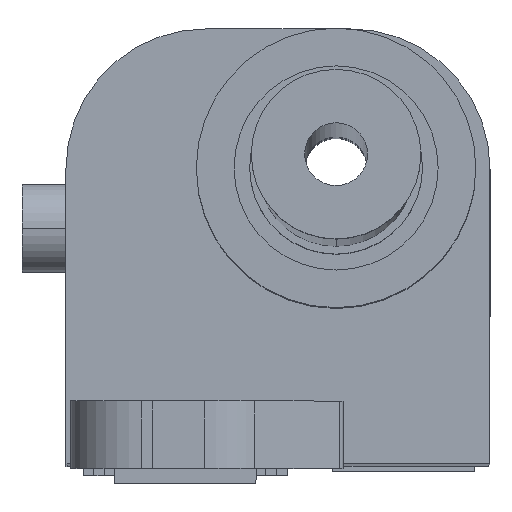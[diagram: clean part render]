
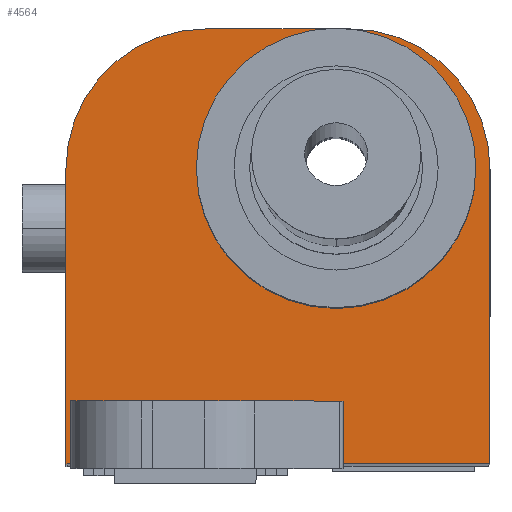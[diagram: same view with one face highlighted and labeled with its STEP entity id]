
A CAD part, top view. The second image highlights one B-rep face of the part: STEP entity #4564.
In plain terms, the highlighted planar face has unit normal (0, 0, 1).
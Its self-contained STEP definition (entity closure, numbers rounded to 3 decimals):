
#131 = VERTEX_POINT ( 'NONE', #813 ) ;
#132 = EDGE_CURVE ( 'NONE', #5045, #131, #870, .T. ) ;
#813 = CARTESIAN_POINT ( 'NONE',  ( 7., 18.8, 0. ) ) ;
#866 = DIRECTION ( 'NONE',  ( 1., 0., 0. ) ) ;
#867 = DIRECTION ( 'NONE',  ( 0., 0., 1. ) ) ;
#868 = CARTESIAN_POINT ( 'NONE',  ( 0., 18.8, 0. ) ) ;
#869 = AXIS2_PLACEMENT_3D ( 'NONE', #868, #867, #866 ) ;
#870 = CIRCLE ( 'NONE', #869, 7. ) ;
#1167 = CARTESIAN_POINT ( 'NONE',  ( -17.2, 0., 0. ) ) ;
#1689 = LINE ( 'NONE', #1167, #1754 ) ;
#1696 = CARTESIAN_POINT ( 'NONE',  ( -17.2, 18.8, 0. ) ) ;
#1753 = DIRECTION ( 'NONE',  ( 0., -1., 0. ) ) ;
#1754 = VECTOR ( 'NONE', #1753, 1000. ) ;
#2038 = CARTESIAN_POINT ( 'NONE',  ( -16.9, 0., 0. ) ) ;
#2222 = CARTESIAN_POINT ( 'NONE',  ( -17.2, 0., 0. ) ) ;
#2428 = CARTESIAN_POINT ( 'NONE',  ( -8.3, 27.7, 0. ) ) ;
#2429 = CARTESIAN_POINT ( 'NONE',  ( 0.9, 27.7, 0. ) ) ;
#2456 = CARTESIAN_POINT ( 'NONE',  ( 9.8, 0., 0. ) ) ;
#2462 = DIRECTION ( 'NONE',  ( -1., 0., 0. ) ) ;
#2463 = VECTOR ( 'NONE', #2462, 1000. ) ;
#2464 = CARTESIAN_POINT ( 'NONE',  ( -17.2, 27.7, 0. ) ) ;
#2465 = LINE ( 'NONE', #2464, #2463 ) ;
#2508 = DIRECTION ( 'NONE',  ( -1., 0., 0. ) ) ;
#2509 = DIRECTION ( 'NONE',  ( 0., 0., 1. ) ) ;
#2510 = CARTESIAN_POINT ( 'NONE',  ( 0.9, 18.8, 0. ) ) ;
#2511 = AXIS2_PLACEMENT_3D ( 'NONE', #2510, #2509, #2508 ) ;
#2512 = CIRCLE ( 'NONE', #2511, 8.9 ) ;
#2513 = DIRECTION ( 'NONE',  ( -1., 0., 0. ) ) ;
#2514 = DIRECTION ( 'NONE',  ( 0., 0., -1. ) ) ;
#2515 = CARTESIAN_POINT ( 'NONE',  ( -17.2, 0., 0. ) ) ;
#2516 = AXIS2_PLACEMENT_3D ( 'NONE', #2515, #2514, #2513 ) ;
#2517 = PLANE ( 'NONE',  #2516 ) ;
#2518 = FACE_OUTER_BOUND ( 'NONE', #4578, .T. ) ;
#2519 = FACE_BOUND ( 'NONE', #4569, .T. ) ;
#2530 = DIRECTION ( 'NONE',  ( 0., 1., 0. ) ) ;
#2531 = VECTOR ( 'NONE', #2530, 1000. ) ;
#2532 = CARTESIAN_POINT ( 'NONE',  ( 9.8, 0., 0. ) ) ;
#2533 = LINE ( 'NONE', #2532, #2531 ) ;
#2534 = CARTESIAN_POINT ( 'NONE',  ( 9.8, 18.8, 0. ) ) ;
#2539 = DIRECTION ( 'NONE',  ( 0., -1., 0. ) ) ;
#2540 = VECTOR ( 'NONE', #2539, 1000. ) ;
#2541 = CARTESIAN_POINT ( 'NONE',  ( -16.9, 4., 0. ) ) ;
#2542 = LINE ( 'NONE', #2541, #2540 ) ;
#2543 = CARTESIAN_POINT ( 'NONE',  ( -8.3, 18.8, 0. ) ) ;
#2556 = DIRECTION ( 'NONE',  ( 1., 0., 0. ) ) ;
#2557 = VECTOR ( 'NONE', #2556, 1000. ) ;
#2558 = CARTESIAN_POINT ( 'NONE',  ( -17.2, 0., 0. ) ) ;
#2559 = LINE ( 'NONE', #2558, #2557 ) ;
#2568 = DIRECTION ( 'NONE',  ( 1., 0., 0. ) ) ;
#2569 = DIRECTION ( 'NONE',  ( 0., 0., 1. ) ) ;
#2570 = CARTESIAN_POINT ( 'NONE',  ( 0., 18.8, 0. ) ) ;
#2571 = AXIS2_PLACEMENT_3D ( 'NONE', #2570, #2569, #2568 ) ;
#2572 = CIRCLE ( 'NONE', #2571, 7. ) ;
#2596 = DIRECTION ( 'NONE',  ( 1., 0., 0. ) ) ;
#2597 = VECTOR ( 'NONE', #2596, 1000. ) ;
#2598 = CARTESIAN_POINT ( 'NONE',  ( -17.2, 0., 0. ) ) ;
#2599 = LINE ( 'NONE', #2598, #2597 ) ;
#2600 = DIRECTION ( 'NONE',  ( -1., 0., 0. ) ) ;
#2601 = DIRECTION ( 'NONE',  ( 0., 0., 1. ) ) ;
#2602 = AXIS2_PLACEMENT_3D ( 'NONE', #2543, #2601, #2600 ) ;
#2603 = CIRCLE ( 'NONE', #2602, 8.9 ) ;
#3248 = CARTESIAN_POINT ( 'NONE',  ( -7., 18.8, 0. ) ) ;
#3374 = CARTESIAN_POINT ( 'NONE',  ( 0.5, 4., 0. ) ) ;
#3375 = DIRECTION ( 'NONE',  ( -1., 0., 0. ) ) ;
#3376 = VECTOR ( 'NONE', #3375, 1000. ) ;
#3377 = CARTESIAN_POINT ( 'NONE',  ( -16.9, 4., 0. ) ) ;
#3378 = LINE ( 'NONE', #3377, #3376 ) ;
#3379 = CARTESIAN_POINT ( 'NONE',  ( -16.9, 4., 0. ) ) ;
#3475 = CARTESIAN_POINT ( 'NONE',  ( 0.5, 0., 0. ) ) ;
#3521 = DIRECTION ( 'NONE',  ( 0., -1., 0. ) ) ;
#3522 = VECTOR ( 'NONE', #3521, 1000. ) ;
#3523 = CARTESIAN_POINT ( 'NONE',  ( 0.5, 4., 0. ) ) ;
#3524 = LINE ( 'NONE', #3523, #3522 ) ;
#4071 = VERTEX_POINT ( 'NONE', #1696 ) ;
#4075 = EDGE_CURVE ( 'NONE', #4071, #4397, #1689, .T. ) ;
#4251 = VERTEX_POINT ( 'NONE', #2038 ) ;
#4397 = VERTEX_POINT ( 'NONE', #2222 ) ;
#4499 = VERTEX_POINT ( 'NONE', #2429 ) ;
#4500 = VERTEX_POINT ( 'NONE', #2428 ) ;
#4521 = EDGE_CURVE ( 'NONE', #4499, #4500, #2465, .T. ) ;
#4525 = VERTEX_POINT ( 'NONE', #2456 ) ;
#4554 = VERTEX_POINT ( 'NONE', #2534 ) ;
#4556 = EDGE_CURVE ( 'NONE', #4525, #4554, #2533, .T. ) ;
#4562 = ORIENTED_EDGE ( 'NONE', *, *, #4556, .T. ) ;
#4564 = ADVANCED_FACE ( 'NONE', ( #2519, #2518 ), #2517, .F. ) ;
#4565 = ORIENTED_EDGE ( 'NONE', *, *, #4567, .T. ) ;
#4566 = ORIENTED_EDGE ( 'NONE', *, *, #4571, .F. ) ;
#4567 = EDGE_CURVE ( 'NONE', #4554, #4499, #2512, .T. ) ;
#4569 = EDGE_LOOP ( 'NONE', ( #4566, #4576 ) ) ;
#4571 = EDGE_CURVE ( 'NONE', #131, #5045, #2572, .T. ) ;
#4576 = ORIENTED_EDGE ( 'NONE', *, *, #132, .F. ) ;
#4577 = EDGE_CURVE ( 'NONE', #5182, #4525, #2559, .T. ) ;
#4578 = EDGE_LOOP ( 'NONE', ( #4562, #4565, #4586, #4590, #4594, #4579, #4595, #4588, #4589, #4591 ) ) ;
#4579 = ORIENTED_EDGE ( 'NONE', *, *, #4597, .T. ) ;
#4586 = ORIENTED_EDGE ( 'NONE', *, *, #4521, .T. ) ;
#4587 = EDGE_CURVE ( 'NONE', #5116, #4251, #2542, .T. ) ;
#4588 = ORIENTED_EDGE ( 'NONE', *, *, #5120, .F. ) ;
#4589 = ORIENTED_EDGE ( 'NONE', *, *, #5188, .T. ) ;
#4590 = ORIENTED_EDGE ( 'NONE', *, *, #4593, .T. ) ;
#4591 = ORIENTED_EDGE ( 'NONE', *, *, #4577, .T. ) ;
#4593 = EDGE_CURVE ( 'NONE', #4500, #4071, #2603, .T. ) ;
#4594 = ORIENTED_EDGE ( 'NONE', *, *, #4075, .T. ) ;
#4595 = ORIENTED_EDGE ( 'NONE', *, *, #4587, .F. ) ;
#4597 = EDGE_CURVE ( 'NONE', #4397, #4251, #2599, .T. ) ;
#5045 = VERTEX_POINT ( 'NONE', #3248 ) ;
#5116 = VERTEX_POINT ( 'NONE', #3379 ) ;
#5120 = EDGE_CURVE ( 'NONE', #5122, #5116, #3378, .T. ) ;
#5122 = VERTEX_POINT ( 'NONE', #3374 ) ;
#5182 = VERTEX_POINT ( 'NONE', #3475 ) ;
#5188 = EDGE_CURVE ( 'NONE', #5122, #5182, #3524, .T. ) ;
